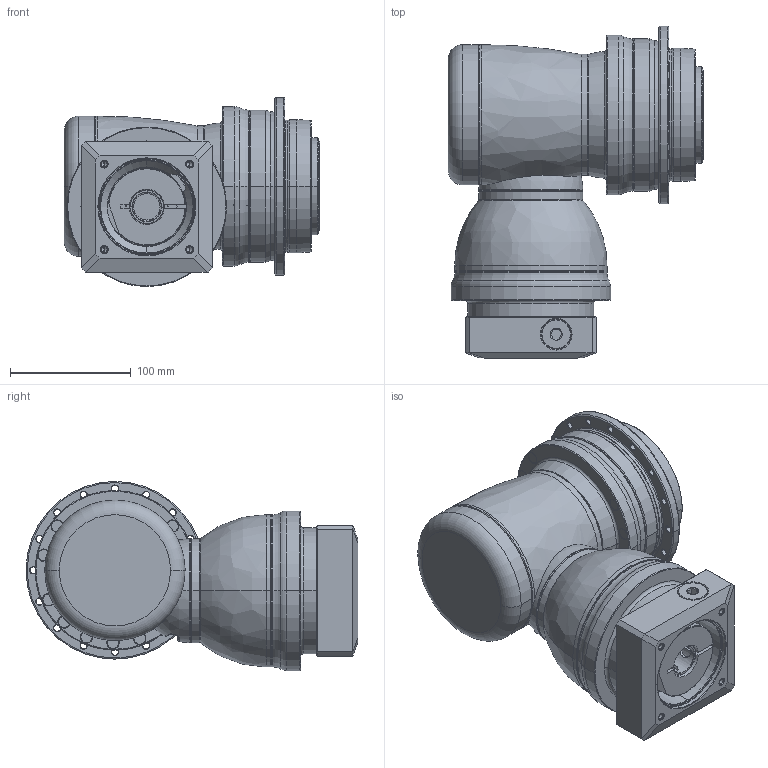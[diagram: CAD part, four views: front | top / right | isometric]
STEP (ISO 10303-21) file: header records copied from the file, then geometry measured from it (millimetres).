
FILE_DESCRIPTION((''),'2;1');
FILE_NAME('APK110_2ST_24-P0409510201_ASM','2018-05-15T',('D00080'),(''),'PRO/ENGINEER BY PARAMETRIC TECHNOLOGY CORPORATION, 2008170','PRO/ENGINEER BY PARAMETRIC TECHNOLOGY CORPORATION, 2008170','');
FILE_SCHEMA(('CONFIG_CONTROL_DESIGN'));
Length unit declared in the file: millimetre
Products named in the file (13): P1008400002; P1802410011; P0278401003; P0359401103; P1211400001; P1315400001; P1007401001; P1318410101; P0503500010; P0129451001; P0409510201; 21711418017; APK110_2ST_24-P0409510201_ASM
Assembly tree (12 placements, depth 2):
  APK110_2ST_24-P0409510201_ASM
    P1008400002
    P1802410011
    P0278401003
    P0359401103
    P1211400001
    P1315400001
    P1007401001
    P1318410101
    P0503500010
    P0129451001
    P0409510201
    21711418017
Bounding box: 211.3 x 274.5 x 156.5 mm (x, y, z)
Volume: 3600754.6 mm3; surface area: 434685 mm2
Topology: 13 solids, 34 shells, 809 faces, 1858 edges, 1139 vertices
Faces by surface type: cylinder 340, cone 199, plane 156, torus 82, bspline 30, sphere 2
Entity records: 25759 total; most frequent: CARTESIAN_POINT 6764, DIRECTION 4370, ORIENTED_EDGE 3558, AXIS2_PLACEMENT_3D 1885, EDGE_CURVE 1822, VERTEX_POINT 1139, CIRCLE 1071, EDGE_LOOP 955
